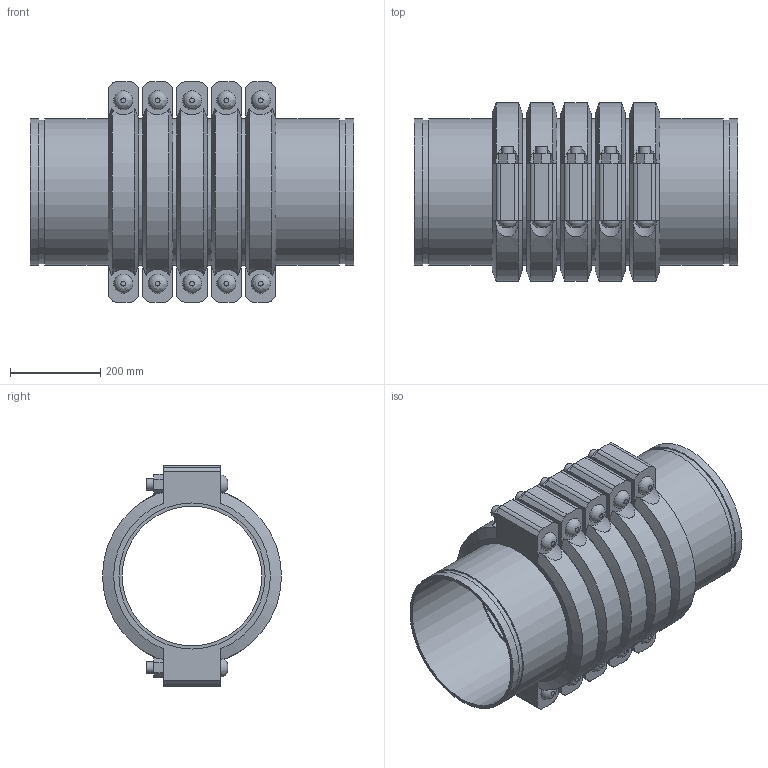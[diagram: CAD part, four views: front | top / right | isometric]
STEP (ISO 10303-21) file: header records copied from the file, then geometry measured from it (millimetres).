
FILE_DESCRIPTION(/* description */ ('VIC EXPANSION JOINT 5 COUPLINGS EXPANDED STYLE 155 (OGS)','CAx-IF Rec.Pracs.---Representation and Presentation of Product Manufacturing Information (PMI)---4.0---2014-10-13'),/* implementation_level */ '2;1');
FILE_NAME(/* name */ 'C:\Users\kkamble\AppData\Roaming\Autodesk\ApplicationPlugins\Victaulic.Temp\A557\Victaulic_IPS_Expansion Joint_Expanded_5 Couplings_Style 155 (OGS)_12 (300).stp',/* time_stamp */ '2021-06-27T00:03:14+02:00',/* author */ ('kkamble'),/* organization */ ('Victaulic'),/* preprocessor_version */ 'ST-DEVELOPER v17.2',/* originating_system */ 'Autodesk Inventor 2019',/* authorisation */ '');
FILE_SCHEMA (('AP242_MANAGED_MODEL_BASED_3D_ENGINEERING_MIM_LF { 1 0 10303 442 1 1 4 }'));
Length unit declared in the file: inch
Products named in the file (4): 155-12.0; Nipple-12.0; Nipple-12.0_1; 077-12.0
Assembly tree (11 placements, depth 2):
  155-12.0
    Nipple-12.0  x2
    Nipple-12.0_1  x4
    077-12.0  x5
Bounding box: 717.55 x 397 x 488.95 mm (x, y, z)
Volume: 21580098.3 mm3; surface area: 3144729.1 mm2
Topology: 11 solids, 21 shells, 377 faces, 905 edges, 634 vertices
Faces by surface type: plane 216, cylinder 131, cone 20, bspline 10
Full cylindrical faces by diameter (mm): 25.4 x20, 27.432 x10, 309.677 x6, 314.96 x5, 318.287 x12, 323.85 x28
Entity records: 3057 total; most frequent: CARTESIAN_POINT 659, DIRECTION 477, ORIENTED_EDGE 410, EDGE_CURVE 205, AXIS2_PLACEMENT_3D 194, VERTEX_POINT 146, EDGE_LOOP 111, CIRCLE 96
